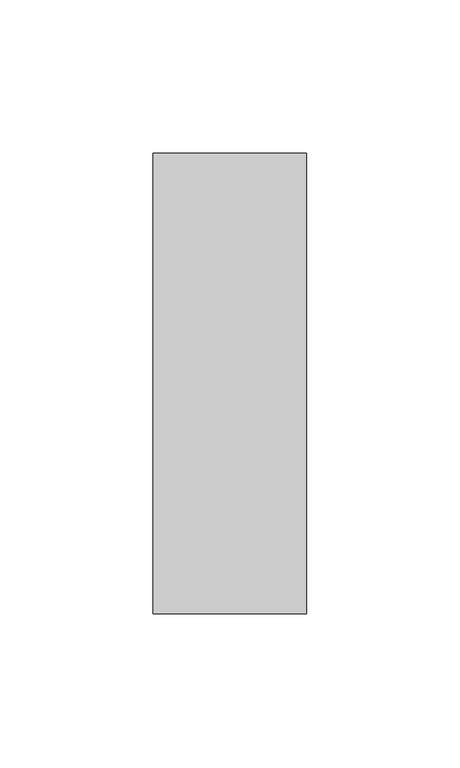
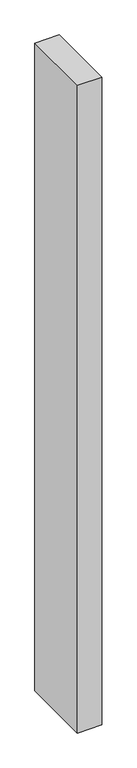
"""IFC4 building model written with IfcOpenShell, lengths in millimetres: member geometry, Прямоугольный импост : 50 x 150 мм."""

from ifc_helpers import new_model, si_unit, frame, origin, place, context, project, spatial, polyline, outline, extrude, source, transform, mapped, element, save


def member_4582b2b8(model_context):
    return source(origin(), model_context, "Body", "SweptSolid", [
        extrude(outline(polyline([(25.0, 75.0), (25.0, -75.0), (-25.0, -75.0), (-25.0, 75.0), (25.0, 75.0)])), frame((0.0, 0.0, -1396.8671558), z_axis=(0.0, 0.0, 1.0), x_axis=(1.0, 0.0, 0.0)), (0.0, 0.0, 1.0), 1396.8671558),
    ])


if __name__ == "__main__":
    model = new_model("IFC4")
    model_context = context("Model", 3, world=origin())
    ifc_project = project(units=[si_unit("LENGTHUNIT", "METRE", prefix="MILLI")], contexts=[model_context])
    site = spatial("IfcSite", under=ifc_project)
    building = spatial("IfcBuilding", under=site)
    placement = place(None, origin())
    member_shape = member_4582b2b8(model_context)
    element("IfcMember", 1, ObjectType="Прямоугольный импост : 50 x 150 мм", at=placement, inside=building, context=model_context, shape_type="MappedRepresentation", body=[
        mapped(member_shape, transform((0.0, 0.0, 0.0), x_axis=(1.0, 0.0, 0.0), y_axis=(0.0, 1.0, 0.0), z_axis=(0.0, 0.0, 1.0))),
    ])
    save(model, "model.ifc")
